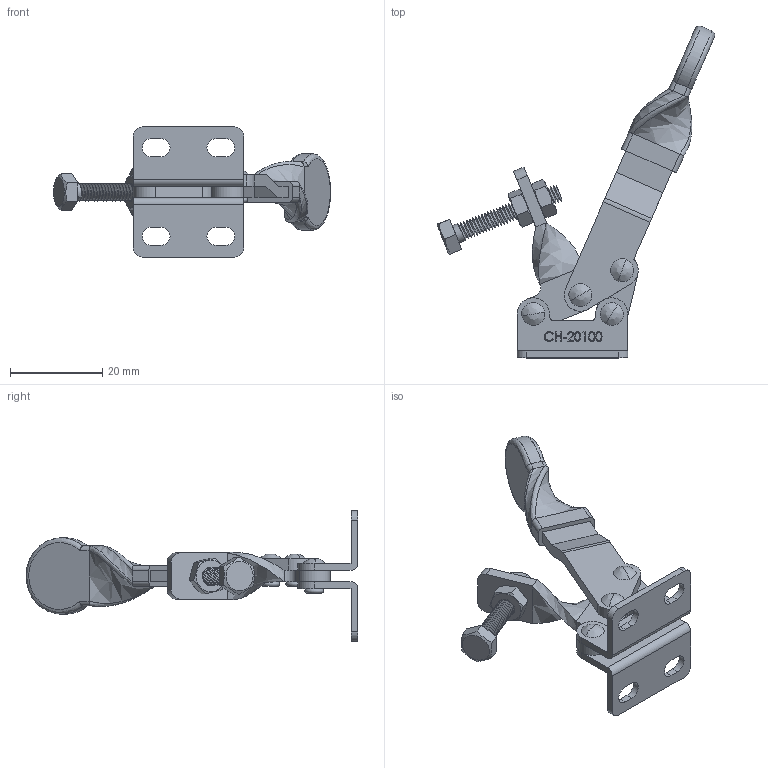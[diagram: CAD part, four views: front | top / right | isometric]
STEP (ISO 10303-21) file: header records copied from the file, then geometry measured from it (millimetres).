
FILE_DESCRIPTION(/* description */ ('STEP AP203'),/* implementation_level */ '2;1');
FILE_NAME(/* name */ 'E:\STRONA\Horizontal toggle clamp\CH-20100\CH-20100_OTWARTY.stp',/* time_stamp */ '2019-01-15T15:59:11+01:00',/* author */ ('Admin'),/* organization */ ('Î¢ÈíÖÐ¹ú'),/* preprocessor_version */ 'ST-DEVELOPER v17.2',/* originating_system */ 'Autodesk Inventor 2019',/* authorisation */ '');
FILE_SCHEMA (('AUTOMOTIVE_DESIGN { 1 0 10303 214 3 1 1 }'));
Products named in the file (10): CH-20100_OTWARTY; CH-20100-03 HANDLE; CH-SA-042507 SPINDLE SUPPLIED; CH-20100-02 SOLID BAR; CH-20100-05; CH-20100-01 FLANGED BASE; M4 Nut; CH-20100-08; CH-20100-06; CH-20100-04 CONNECTING-PLATE
Assembly tree (12 placements, depth 2):
  CH-20100_OTWARTY
    CH-20100-03 HANDLE
    CH-20100-08  x2
    CH-20100-06  x2
    CH-SA-042507 SPINDLE SUPPLIED
    CH-20100-02 SOLID BAR
    CH-20100-05
    M4 Nut  x2
    CH-20100-01 FLANGED BASE
    CH-20100-04 CONNECTING-PLATE
Bounding box: 60.09 x 71.91 x 28.2 mm (x, y, z)
Volume: 6037.2 mm3; surface area: 9164.9 mm2
Topology: 13 solids, 13 shells, 549 faces, 1553 edges, 1050 vertices
Faces by surface type: plane 236, bspline 213, cylinder 77, cone 15, torus 8
Full cylindrical faces by diameter (mm): 0.812 x1, 0.931 x1, 2.4 x4, 3 x14, 3.2 x6, 4 x1
Entity records: 39310 total; most frequent: CARTESIAN_POINT 26840, ORIENTED_EDGE 2904, DIRECTION 1852, EDGE_CURVE 1452, VERTEX_POINT 988, LINE 782, VECTOR 782, EDGE_LOOP 576
